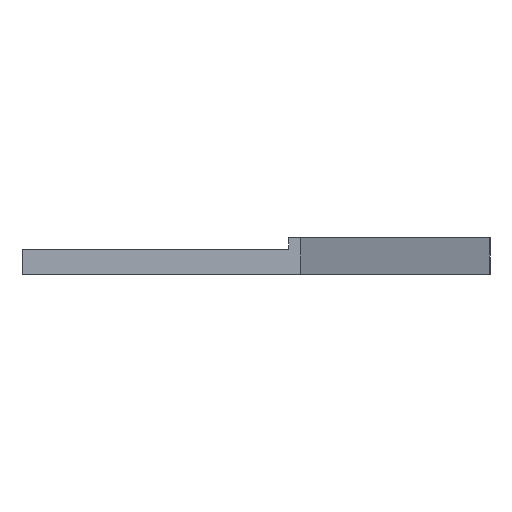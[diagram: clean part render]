
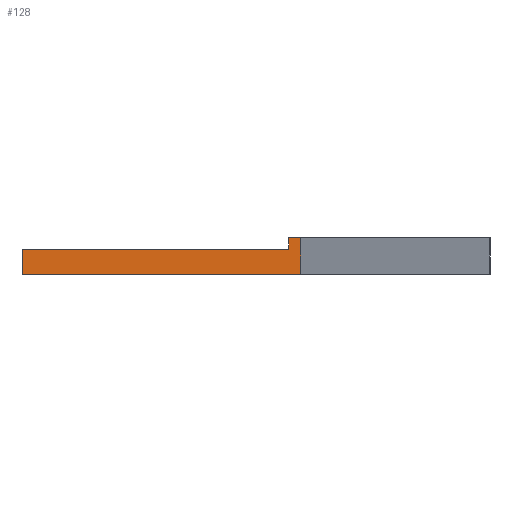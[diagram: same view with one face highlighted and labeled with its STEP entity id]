
A CAD part, left-side view. The second image highlights one B-rep face of the part: STEP entity #128.
In plain terms, the highlighted planar face has unit normal (-1, 0, 0).
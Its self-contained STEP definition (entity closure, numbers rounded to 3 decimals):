
#128=ADVANCED_FACE('',(#770),#772,.T.);
#770=FACE_BOUND('',#771,.T.);
#771=EDGE_LOOP('',(#1834,#1835,#1836,#1837,#1838,#1839));
#772=PLANE('',#773);
#773=AXIS2_PLACEMENT_3D('',#774,#775,#776);
#774=CARTESIAN_POINT('',(-584.,0.,0.));
#775=DIRECTION('',(-1.,0.,0.));
#776=DIRECTION('',(0.,-1.,0.));
#1834=ORIENTED_EDGE('',*,*,#2458,.T.);
#1835=ORIENTED_EDGE('',*,*,#2460,.F.);
#1836=ORIENTED_EDGE('',*,*,#2461,.T.);
#1837=ORIENTED_EDGE('',*,*,#2313,.T.);
#1838=ORIENTED_EDGE('',*,*,#2462,.F.);
#1839=ORIENTED_EDGE('',*,*,#2217,.T.);
#2217=EDGE_CURVE('',#2731,#2729,#2732,.T.);
#2313=EDGE_CURVE('',#2922,#2920,#2923,.T.);
#2458=EDGE_CURVE('',#2729,#3138,#3139,.T.);
#2460=EDGE_CURVE('',#3141,#3138,#3142,.T.);
#2461=EDGE_CURVE('',#3141,#2922,#3143,.F.);
#2462=EDGE_CURVE('',#2731,#2920,#3144,.T.);
#2729=VERTEX_POINT('',#3683);
#2731=VERTEX_POINT('',#3687);
#2732=LINE('',#3688,#3689);
#2920=VERTEX_POINT('',#4142);
#2922=VERTEX_POINT('',#4146);
#2923=LINE('',#4147,#4148);
#3138=VERTEX_POINT('',#4714);
#3139=LINE('',#4715,#4716);
#3141=VERTEX_POINT('',#4721);
#3142=LINE('',#4722,#4723);
#3143=LINE('',#4725,#4726);
#3144=LINE('',#4728,#4729);
#3683=CARTESIAN_POINT('',(-584.,-44.59,0.));
#3687=CARTESIAN_POINT('',(-584.,0.,0.));
#3688=CARTESIAN_POINT('',(-584.,0.,0.));
#3689=VECTOR('',#3690,1.);
#3690=DIRECTION('',(0.,-1.,0.));
#4142=CARTESIAN_POINT('',(-584.,0.,4.));
#4146=CARTESIAN_POINT('',(-584.,-42.6,4.));
#4147=CARTESIAN_POINT('',(-584.,-42.6,4.));
#4148=VECTOR('',#4149,1.);
#4149=DIRECTION('',(0.,1.,0.));
#4714=CARTESIAN_POINT('',(-584.,-44.59,5.8));
#4715=CARTESIAN_POINT('',(-584.,-44.59,0.));
#4716=VECTOR('',#4717,1.);
#4717=DIRECTION('',(0.,0.,1.));
#4721=CARTESIAN_POINT('',(-584.,-42.6,5.8));
#4722=CARTESIAN_POINT('',(-584.,-42.6,5.8));
#4723=VECTOR('',#4724,1.);
#4724=DIRECTION('',(0.,-1.,0.));
#4725=CARTESIAN_POINT('',(-584.,-42.6,4.));
#4726=VECTOR('',#4727,1.);
#4727=DIRECTION('',(0.,0.,1.));
#4728=CARTESIAN_POINT('',(-584.,0.,0.));
#4729=VECTOR('',#4730,1.);
#4730=DIRECTION('',(0.,0.,1.));
